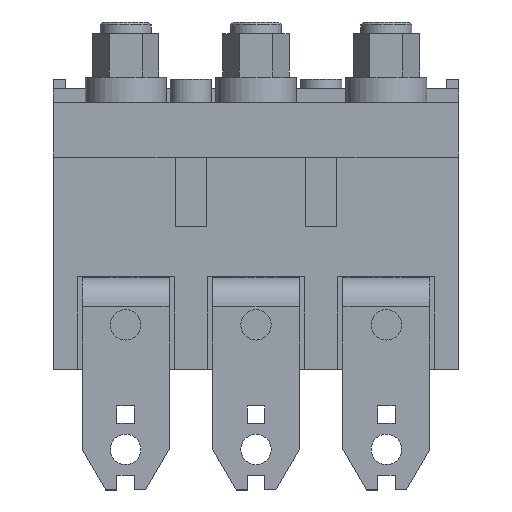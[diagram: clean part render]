
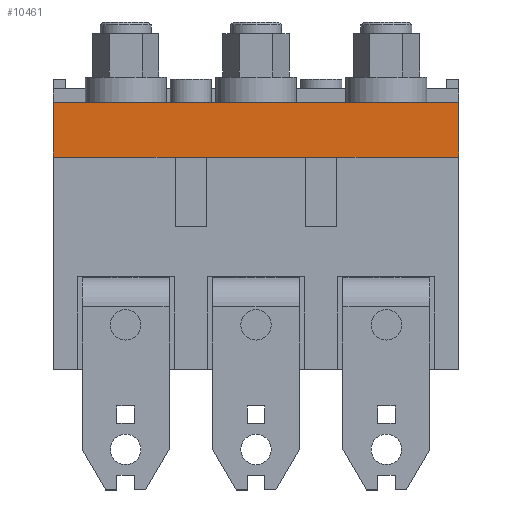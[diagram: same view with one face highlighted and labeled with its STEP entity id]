
A CAD part, front view. The second image highlights one B-rep face of the part: STEP entity #10461.
In plain terms, the highlighted planar face has unit normal (0, -1, 0).
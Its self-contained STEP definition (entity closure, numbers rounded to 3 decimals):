
#520 = ORIENTED_EDGE ( 'NONE', *, *, #3304, .T. ) ;
#698 = CARTESIAN_POINT ( 'NONE',  ( 70., -135.5, -8.1 ) ) ;
#887 = DIRECTION ( 'NONE',  ( 0., 0., -1. ) ) ;
#2013 = AXIS2_PLACEMENT_3D ( 'NONE', #10496, #11396, #887 ) ;
#2289 = CARTESIAN_POINT ( 'NONE',  ( -70., -135.5, -26.9 ) ) ;
#2473 = LINE ( 'NONE', #698, #9301 ) ;
#3304 = EDGE_CURVE ( 'NONE', #5156, #8325, #6071, .T. ) ;
#3609 = ORIENTED_EDGE ( 'NONE', *, *, #11069, .T. ) ;
#4031 = ORIENTED_EDGE ( 'NONE', *, *, #4352, .F. ) ;
#4143 = EDGE_LOOP ( 'NONE', ( #3609, #6768, #4031, #520 ) ) ;
#4352 = EDGE_CURVE ( 'NONE', #5156, #10305, #5349, .T. ) ;
#4364 = DIRECTION ( 'NONE',  ( 1., 0., 0. ) ) ;
#4470 = LINE ( 'NONE', #2289, #12637 ) ;
#4471 = CARTESIAN_POINT ( 'NONE',  ( -70., -135.5, -8.1 ) ) ;
#5156 = VERTEX_POINT ( 'NONE', #9444 ) ;
#5172 = PLANE ( 'NONE',  #2013 ) ;
#5349 = LINE ( 'NONE', #4471, #13510 ) ;
#6071 = LINE ( 'NONE', #11840, #7882 ) ;
#6768 = ORIENTED_EDGE ( 'NONE', *, *, #7239, .F. ) ;
#7239 = EDGE_CURVE ( 'NONE', #10305, #10748, #2473, .T. ) ;
#7882 = VECTOR ( 'NONE', #8669, 1000. ) ;
#8325 = VERTEX_POINT ( 'NONE', #11208 ) ;
#8669 = DIRECTION ( 'NONE',  ( 0., 0., -1. ) ) ;
#9301 = VECTOR ( 'NONE', #13475, 1000. ) ;
#9444 = CARTESIAN_POINT ( 'NONE',  ( -70., -135.5, -8.1 ) ) ;
#10206 = FACE_OUTER_BOUND ( 'NONE', #4143, .T. ) ;
#10305 = VERTEX_POINT ( 'NONE', #13104 ) ;
#10461 = ADVANCED_FACE ( 'NONE', ( #10206 ), #5172, .T. ) ;
#10496 = CARTESIAN_POINT ( 'NONE',  ( -70., -135.5, -8.1 ) ) ;
#10748 = VERTEX_POINT ( 'NONE', #12864 ) ;
#11069 = EDGE_CURVE ( 'NONE', #8325, #10748, #4470, .T. ) ;
#11208 = CARTESIAN_POINT ( 'NONE',  ( -70., -135.5, -26.9 ) ) ;
#11396 = DIRECTION ( 'NONE',  ( 0., -1., 0. ) ) ;
#11840 = CARTESIAN_POINT ( 'NONE',  ( -70., -135.5, -8.1 ) ) ;
#12637 = VECTOR ( 'NONE', #4364, 1000. ) ;
#12864 = CARTESIAN_POINT ( 'NONE',  ( 70., -135.5, -26.9 ) ) ;
#12981 = DIRECTION ( 'NONE',  ( 1., 0., 0. ) ) ;
#13104 = CARTESIAN_POINT ( 'NONE',  ( 70., -135.5, -8.1 ) ) ;
#13475 = DIRECTION ( 'NONE',  ( 0., 0., -1. ) ) ;
#13510 = VECTOR ( 'NONE', #12981, 1000. ) ;
